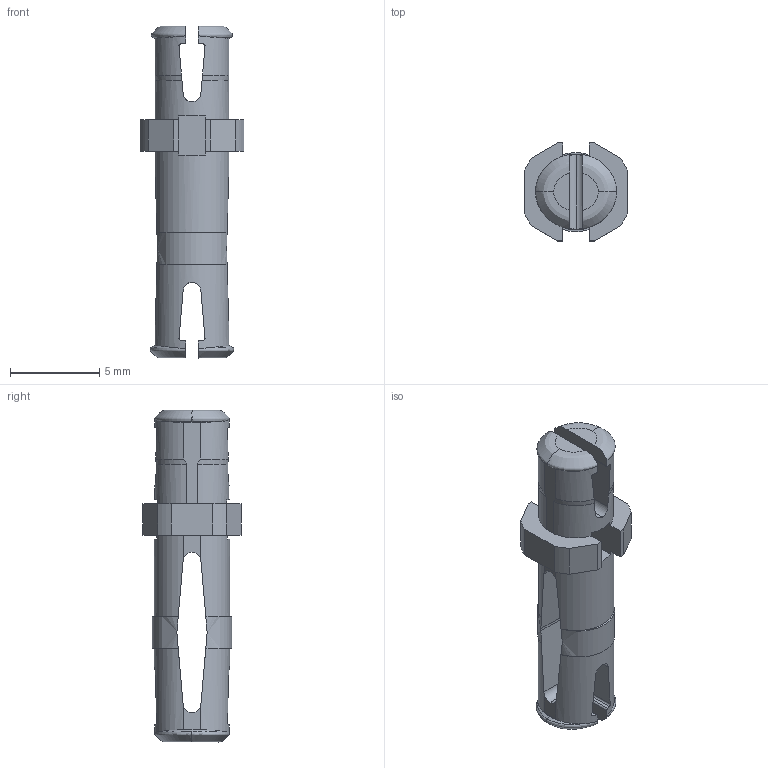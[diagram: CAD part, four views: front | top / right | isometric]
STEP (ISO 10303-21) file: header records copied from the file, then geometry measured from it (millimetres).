
FILE_DESCRIPTION (( 'STEP AP214' ), '1' );
FILE_NAME ('228-2500-2261.STEP', '2021-02-18T20:32:59', ( '' ), ( '' ), 'SwSTEP 2.0', 'SolidWorks 2019', '' );
FILE_SCHEMA (( 'AUTOMOTIVE_DESIGN' ));
Length unit declared in the file: millimetre
Products named in the file (1): 228-2500-2261
Bounding box: 5.8 x 5.5 x 18.63 mm (x, y, z)
Volume: 186.7 mm3; surface area: 433.6 mm2
Topology: 1 solids, 1 shells, 113 faces, 336 edges, 221 vertices
Faces by surface type: plane 58, cylinder 32, bspline 19, cone 4
Entity records: 14018 total; most frequent: CARTESIAN_POINT 11257, ORIENTED_EDGE 672, DIRECTION 450, EDGE_CURVE 336, VERTEX_POINT 221, VECTOR 154, LINE 154, AXIS2_PLACEMENT_3D 148
